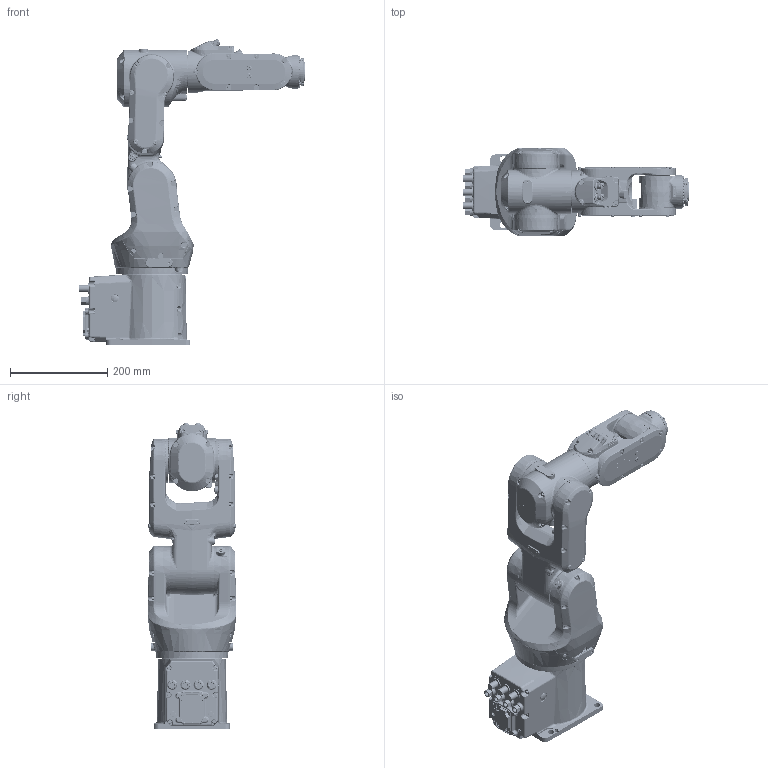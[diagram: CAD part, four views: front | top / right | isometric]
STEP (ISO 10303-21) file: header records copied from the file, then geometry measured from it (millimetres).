
FILE_DESCRIPTION (( 'STEP AP214' ), '1' );
FILE_NAME ('IRB1100_4kg-475-STD_OmniCore_rev04_STEP_C.STEP', '2021-11-01T08:51:07', ( '' ), ( '' ), 'SwSTEP 2.0', 'SolidWorks 2018', '' );
FILE_SCHEMA (( 'AUTOMOTIVE_DESIGN' ));
Length unit declared in the file: millimetre
Products named in the file (8): IRB1100_4kg-475_OmniCore_rev03_Base_CAD_j.sat; IRB1100_4kg-475_OmniCore_rev03_Link03_CAD_j.sat; IRB1100_4kg-475_OmniCore_rev03_Link06_CAD_j.sat; IRB1100_4kg-475_OmniCore_rev03_Link01_CAD_j; IRB1100_4kg-475-STD_OmniCore_rev04_STEP_C; IRB1100_4kg-475_OmniCore_rev03_Link04_CAD_j.sat; IRB1100_4kg-475_OmniCore_rev03_Link05_CAD_j.sat; IRB1100_4kg-475_OmniCore_rev03_Link02_CAD_j.sat
Assembly tree (7 placements, depth 2):
  IRB1100_4kg-475-STD_OmniCore_rev04_STEP_C
    IRB1100_4kg-475_OmniCore_rev03_Link01_CAD_j
    IRB1100_4kg-475_OmniCore_rev03_Link02_CAD_j.sat
    IRB1100_4kg-475_OmniCore_rev03_Link03_CAD_j.sat
    IRB1100_4kg-475_OmniCore_rev03_Link04_CAD_j.sat
    IRB1100_4kg-475_OmniCore_rev03_Link05_CAD_j.sat
    IRB1100_4kg-475_OmniCore_rev03_Link06_CAD_j.sat
    IRB1100_4kg-475_OmniCore_rev03_Base_CAD_j.sat
Bounding box: 463 x 182.27 x 629.73 mm (x, y, z)
Volume: 11789859.8 mm3; surface area: 723153.3 mm2
Topology: 7 solids, 15 shells, 5648 faces, 14224 edges, 8743 vertices
Faces by surface type: bspline 1955, plane 1728, cylinder 1057, cone 514, torus 365, sphere 29
Entity records: 307727 total; most frequent: CARTESIAN_POINT 190676, ORIENTED_EDGE 28156, DIRECTION 18383, EDGE_CURVE 14078, VERTEX_POINT 8743, AXIS2_PLACEMENT_3D 6870, EDGE_LOOP 5989, FACE_OUTER_BOUND 5648
